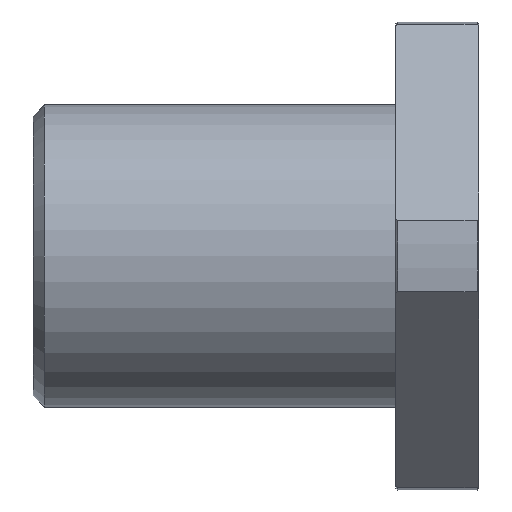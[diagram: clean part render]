
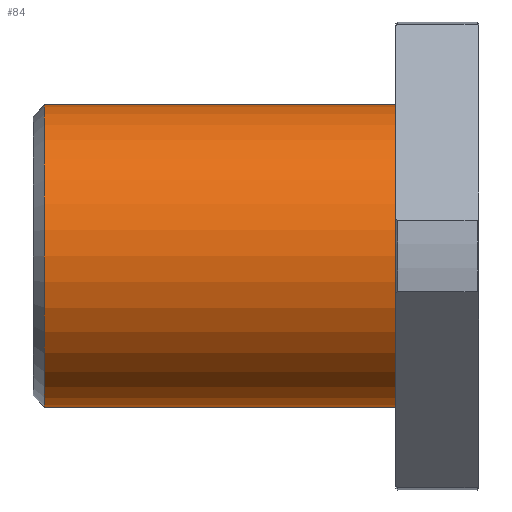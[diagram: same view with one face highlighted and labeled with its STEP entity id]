
A CAD part, front view. The second image highlights one B-rep face of the part: STEP entity #84.
In plain terms, the highlighted cylindrical face has radius 20 mm (diameter 40 mm), a full revolution.
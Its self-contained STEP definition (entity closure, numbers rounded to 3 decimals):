
#84=ADVANCED_FACE('',(#133,#134),#135,.T.);
#133=FACE_OUTER_BOUND('',#227,.T.);
#134=FACE_OUTER_BOUND('',#228,.T.);
#135=CYLINDRICAL_SURFACE('',#229,20.0);
#227=EDGE_LOOP('',(#382));
#228=EDGE_LOOP('',(#383));
#229=AXIS2_PLACEMENT_3D('',#384,#385,#386);
#382=ORIENTED_EDGE('',*,*,#576,.F.);
#383=ORIENTED_EDGE('',*,*,#583,.T.);
#384=CARTESIAN_POINT('',(-59.0,0.,0.0));
#385=DIRECTION('',(-1.0,-0.0,-0.0));
#386=DIRECTION('',(0.0,0.0,-1.0));
#576=EDGE_CURVE('',#678,#678,#679,.T.);
#583=EDGE_CURVE('',#688,#688,#689,.T.);
#678=VERTEX_POINT('',#853);
#679=CIRCLE('',#854,20.0);
#688=VERTEX_POINT('',#864);
#689=CIRCLE('',#865,20.0);
#853=CARTESIAN_POINT('',(-11.0,0.,-20.0));
#854=AXIS2_PLACEMENT_3D('',#962,#963,#964);
#864=CARTESIAN_POINT('',(-57.5,0.,-20.0));
#865=AXIS2_PLACEMENT_3D('',#981,#982,#983);
#962=CARTESIAN_POINT('',(-11.0,0.,0.0));
#963=DIRECTION('',(1.0,0.0,0.0));
#964=DIRECTION('',(0.0,0.0,-1.0));
#981=CARTESIAN_POINT('',(-57.5,0.,0.0));
#982=DIRECTION('',(1.0,0.0,0.0));
#983=DIRECTION('',(0.0,0.0,-1.0));
